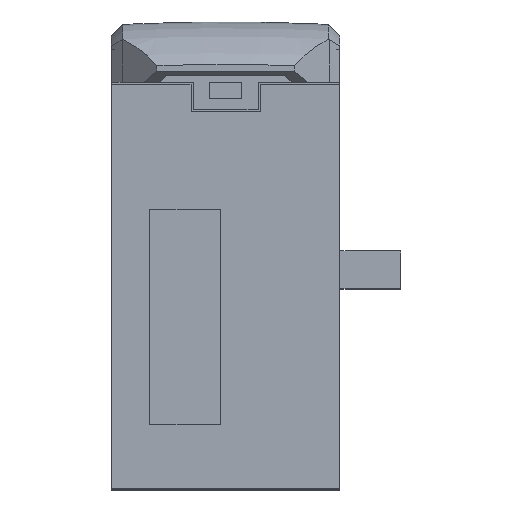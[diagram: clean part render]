
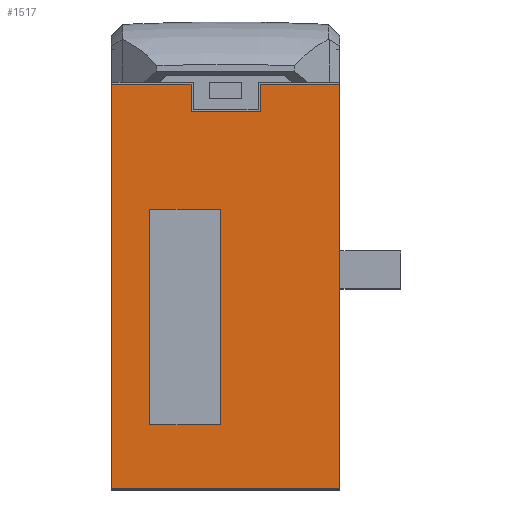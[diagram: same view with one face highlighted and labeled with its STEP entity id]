
A CAD part, top view. The second image highlights one B-rep face of the part: STEP entity #1517.
In plain terms, the highlighted planar face has unit normal (0, 0, 1).
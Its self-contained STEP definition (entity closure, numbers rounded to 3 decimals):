
#727 = EDGE_CURVE ( 'NONE', #976, #1149, #3625, .T. ) ;
#976 = VERTEX_POINT ( 'NONE', #3793 ) ;
#1017 = ORIENTED_EDGE ( 'NONE', *, *, #1527, .T. ) ;
#1127 = VERTEX_POINT ( 'NONE', #4077 ) ;
#1136 = VERTEX_POINT ( 'NONE', #4084 ) ;
#1140 = EDGE_CURVE ( 'NONE', #1136, #1127, #4013, .T. ) ;
#1149 = VERTEX_POINT ( 'NONE', #4037 ) ;
#1450 = EDGE_LOOP ( 'NONE', ( #1661, #1518, #1515, #1467 ) ) ;
#1464 = VERTEX_POINT ( 'NONE', #4563 ) ;
#1465 = EDGE_CURVE ( 'NONE', #1474, #1472, #4557, .T. ) ;
#1466 = ORIENTED_EDGE ( 'NONE', *, *, #727, .F. ) ;
#1467 = ORIENTED_EDGE ( 'NONE', *, *, #1652, .F. ) ;
#1468 = EDGE_CURVE ( 'NONE', #1464, #1635, #4613, .T. ) ;
#1469 = ORIENTED_EDGE ( 'NONE', *, *, #1528, .F. ) ;
#1470 = ORIENTED_EDGE ( 'NONE', *, *, #1468, .F. ) ;
#1472 = VERTEX_POINT ( 'NONE', #4554 ) ;
#1473 = VERTEX_POINT ( 'NONE', #4559 ) ;
#1474 = VERTEX_POINT ( 'NONE', #4583 ) ;
#1475 = VERTEX_POINT ( 'NONE', #4566 ) ;
#1478 = ORIENTED_EDGE ( 'NONE', *, *, #1667, .F. ) ;
#1515 = ORIENTED_EDGE ( 'NONE', *, *, #1516, .F. ) ;
#1516 = EDGE_CURVE ( 'NONE', #1473, #1474, #4695, .T. ) ;
#1517 = ADVANCED_FACE ( 'NONE', ( #4617, #4616 ), #4615, .F. ) ;
#1518 = ORIENTED_EDGE ( 'NONE', *, *, #1465, .F. ) ;
#1527 = EDGE_CURVE ( 'NONE', #976, #1537, #4626, .T. ) ;
#1528 = EDGE_CURVE ( 'NONE', #1149, #1464, #4622, .T. ) ;
#1529 = EDGE_CURVE ( 'NONE', #1472, #1475, #4641, .T. ) ;
#1532 = ORIENTED_EDGE ( 'NONE', *, *, #1668, .F. ) ;
#1533 = ORIENTED_EDGE ( 'NONE', *, *, #1140, .F. ) ;
#1537 = VERTEX_POINT ( 'NONE', #4671 ) ;
#1539 = ORIENTED_EDGE ( 'NONE', *, *, #1670, .F. ) ;
#1635 = VERTEX_POINT ( 'NONE', #4836 ) ;
#1651 = EDGE_LOOP ( 'NONE', ( #1470, #1469, #1466, #1017, #1478, #1533, #1532, #1539 ) ) ;
#1652 = EDGE_CURVE ( 'NONE', #1475, #1473, #4859, .T. ) ;
#1661 = ORIENTED_EDGE ( 'NONE', *, *, #1529, .F. ) ;
#1662 = VERTEX_POINT ( 'NONE', #4818 ) ;
#1667 = EDGE_CURVE ( 'NONE', #1127, #1537, #4542, .T. ) ;
#1668 = EDGE_CURVE ( 'NONE', #1662, #1136, #4844, .T. ) ;
#1670 = EDGE_CURVE ( 'NONE', #1635, #1662, #4947, .T. ) ;
#3622 = DIRECTION ( 'NONE',  ( 1., 0., 0. ) ) ;
#3623 = VECTOR ( 'NONE', #3622, 1000. ) ;
#3624 = CARTESIAN_POINT ( 'NONE',  ( -10.55, 34.3, 0. ) ) ;
#3625 = LINE ( 'NONE', #3624, #3623 ) ;
#3793 = CARTESIAN_POINT ( 'NONE',  ( -10.55, 34.3, 0. ) ) ;
#4013 = LINE ( 'NONE', #4049, #4069 ) ;
#4037 = CARTESIAN_POINT ( 'NONE',  ( -3.2, 34.3, 0. ) ) ;
#4048 = DIRECTION ( 'NONE',  ( 0., -1., 0. ) ) ;
#4049 = CARTESIAN_POINT ( 'NONE',  ( 10.55, -3., 0. ) ) ;
#4069 = VECTOR ( 'NONE', #4048, 1000. ) ;
#4077 = CARTESIAN_POINT ( 'NONE',  ( 10.55, -3., 0. ) ) ;
#4084 = CARTESIAN_POINT ( 'NONE',  ( 10.55, 34.3, 0. ) ) ;
#4542 = LINE ( 'NONE', #4597, #4591 ) ;
#4554 = CARTESIAN_POINT ( 'NONE',  ( -7., 2.9, 0. ) ) ;
#4557 = LINE ( 'NONE', #4580, #4579 ) ;
#4559 = CARTESIAN_POINT ( 'NONE',  ( -0.5, 22.8, 0. ) ) ;
#4563 = CARTESIAN_POINT ( 'NONE',  ( -3.2, 31.8, 0. ) ) ;
#4565 = VECTOR ( 'NONE', #4586, 1000. ) ;
#4566 = CARTESIAN_POINT ( 'NONE',  ( -0.5, 2.9, 0. ) ) ;
#4578 = DIRECTION ( 'NONE',  ( 0., -1., 0. ) ) ;
#4579 = VECTOR ( 'NONE', #4578, 1000. ) ;
#4580 = CARTESIAN_POINT ( 'NONE',  ( -7., 22.8, 0. ) ) ;
#4583 = CARTESIAN_POINT ( 'NONE',  ( -7., 22.8, 0. ) ) ;
#4586 = DIRECTION ( 'NONE',  ( 1., 0., 0. ) ) ;
#4591 = VECTOR ( 'NONE', #4696, 1000. ) ;
#4597 = CARTESIAN_POINT ( 'NONE',  ( 10.55, -3., 0. ) ) ;
#4612 = CARTESIAN_POINT ( 'NONE',  ( -3.2, 31.8, 0. ) ) ;
#4613 = LINE ( 'NONE', #4612, #4565 ) ;
#4614 = DIRECTION ( 'NONE',  ( -1., 0., 0. ) ) ;
#4615 = PLANE ( 'NONE',  #4692 ) ;
#4616 = FACE_OUTER_BOUND ( 'NONE', #1651, .T. ) ;
#4617 = FACE_BOUND ( 'NONE', #1450, .T. ) ;
#4620 = VECTOR ( 'NONE', #4643, 1000. ) ;
#4621 = CARTESIAN_POINT ( 'NONE',  ( -3.2, 34.3, 0. ) ) ;
#4622 = LINE ( 'NONE', #4621, #4620 ) ;
#4623 = DIRECTION ( 'NONE',  ( 0., -1., 0. ) ) ;
#4624 = VECTOR ( 'NONE', #4623, 1000. ) ;
#4625 = CARTESIAN_POINT ( 'NONE',  ( -10.55, -3., 0. ) ) ;
#4626 = LINE ( 'NONE', #4625, #4624 ) ;
#4630 = VECTOR ( 'NONE', #4614, 1000. ) ;
#4638 = DIRECTION ( 'NONE',  ( 1., 0., 0. ) ) ;
#4639 = VECTOR ( 'NONE', #4638, 1000. ) ;
#4640 = CARTESIAN_POINT ( 'NONE',  ( -7., 2.9, 0. ) ) ;
#4641 = LINE ( 'NONE', #4640, #4639 ) ;
#4643 = DIRECTION ( 'NONE',  ( 0., -1., 0. ) ) ;
#4671 = CARTESIAN_POINT ( 'NONE',  ( -10.55, -3., 0. ) ) ;
#4676 = DIRECTION ( 'NONE',  ( -1., 0., 0. ) ) ;
#4679 = DIRECTION ( 'NONE',  ( 0., 0., -1. ) ) ;
#4680 = CARTESIAN_POINT ( 'NONE',  ( 10.55, -3., 0. ) ) ;
#4692 = AXIS2_PLACEMENT_3D ( 'NONE', #4680, #4679, #4676 ) ;
#4694 = CARTESIAN_POINT ( 'NONE',  ( -7., 22.8, 0. ) ) ;
#4695 = LINE ( 'NONE', #4694, #4630 ) ;
#4696 = DIRECTION ( 'NONE',  ( -1., 0., 0. ) ) ;
#4818 = CARTESIAN_POINT ( 'NONE',  ( 3.2, 34.3, 0. ) ) ;
#4836 = CARTESIAN_POINT ( 'NONE',  ( 3.2, 31.8, 0. ) ) ;
#4837 = DIRECTION ( 'NONE',  ( 1., 0., 0. ) ) ;
#4838 = VECTOR ( 'NONE', #4837, 1000. ) ;
#4839 = CARTESIAN_POINT ( 'NONE',  ( -10.55, 34.3, 0. ) ) ;
#4844 = LINE ( 'NONE', #4839, #4838 ) ;
#4847 = DIRECTION ( 'NONE',  ( 0., 1., 0. ) ) ;
#4848 = VECTOR ( 'NONE', #4847, 1000. ) ;
#4858 = CARTESIAN_POINT ( 'NONE',  ( -0.5, 22.8, 0. ) ) ;
#4859 = LINE ( 'NONE', #4858, #4848 ) ;
#4944 = DIRECTION ( 'NONE',  ( 0., 1., 0. ) ) ;
#4945 = VECTOR ( 'NONE', #4944, 1000. ) ;
#4946 = CARTESIAN_POINT ( 'NONE',  ( 3.2, 34.3, 0. ) ) ;
#4947 = LINE ( 'NONE', #4946, #4945 ) ;
